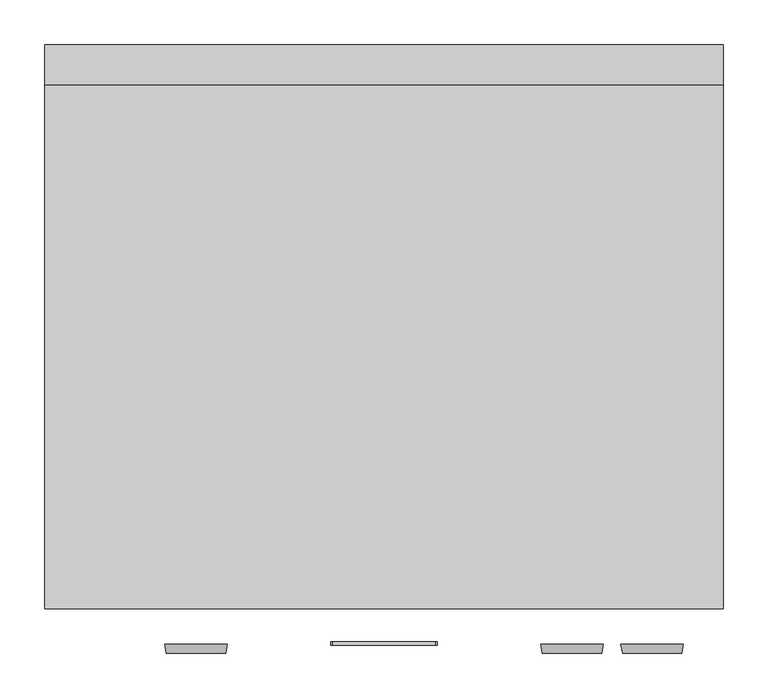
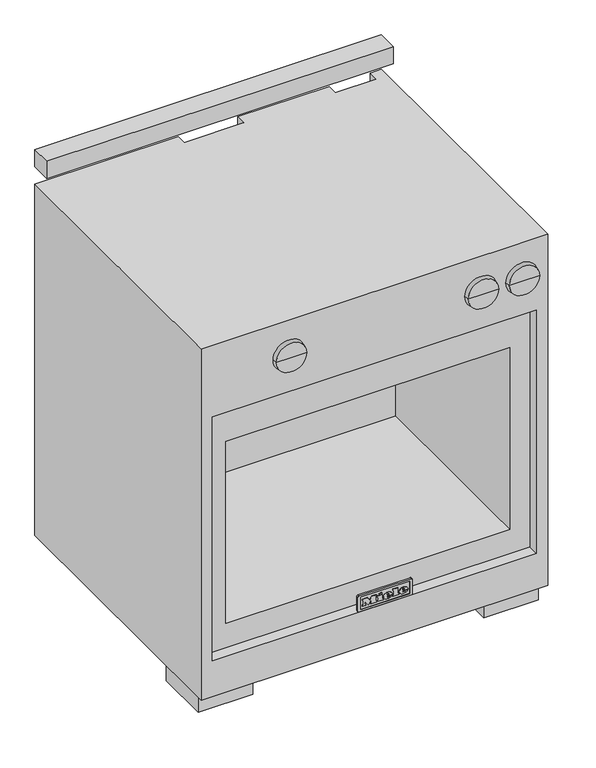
"""IFC4 building model written with IfcOpenShell, lengths in millimetres: proxy geometry, 09810020_USA_HR1124G_EDST-CLST : 25112451_USA_9810020_HR1124G_EDST-CLST."""

from ifc_helpers import new_model, si_unit, point, frame, frame_2d, origin, origin_with_axes, place, context, project, spatial, polyline, circle_curve, ellipse_curve, trimmed, segment, composite_curve, outline, extrude, faceted_brep, source, transform, mapped, element, save
from ifc_brep_helpers import plane_surface, cylinder_surface, revolved_surface, extruded_surface, advanced_brep


def specialty_equipment_f5dd6db6(model_context):
    return source(origin(), model_context, "Body", "SolidModel", [
        advanced_brep(
        [(-244.2367302, -683.0, 813.0), (-177.7632698, -683.0, 813.0), (-211.0, -683.0, 813.0), (-246.0, -673.0, 813.0), (-176.0, -673.0, 813.0), (-211.0, -673.0, 813.0)],
        [
            (0, 1, circle_curve(frame((-211.0, -683.0, 813.0), z_axis=(0.0, -1.0, 0.0), x_axis=(1.0, 0.0, 0.0)), 33.2367302)),
            (1, 2),
            (2, 0),
            (1, 0, circle_curve(frame((-211.0, -683.0, 813.0), z_axis=(0.0, -1.0, 0.0), x_axis=(1.0, 0.0, 0.0)), 33.2367302)),
            (3, 4, circle_curve(frame((-211.0, -673.0, 813.0), z_axis=(0.0, -1.0, 0.0), x_axis=(1.0, 0.0, 0.0)), 35.0)),
            (4, 1),
            (0, 3),
            (4, 3, circle_curve(frame((-211.0, -673.0, 813.0), z_axis=(0.0, -1.0, 0.0), x_axis=(1.0, 0.0, 0.0)), 35.0)),
            (5, 4),
            (3, 5),
        ],
        [
            plane_surface(frame((-211.0, -683.0, 813.0), z_axis=(0.0, -1.0, 0.0), x_axis=(1.0, 0.0, 0.0))),
            revolved_surface(polyline([(-177.7632698, -683.0, 813.0), (-176.0, -673.0, 813.0)]), (-211.0, 751.3738435, 813.0), (0.0, 1.0, 0.0)),
            plane_surface(frame((-211.0, -673.0, 813.0), z_axis=(0.0, 1.0, 0.0), x_axis=(1.0, 0.0, 0.0))),
        ],
        [
            (0, [[1, 2, 3]]),
            (0, [[4, -3, -2]]),
            (1, [[5, 6, -1, 7]]),
            (1, [[8, -7, -4, -6]]),
            (2, [[9, -5, 10]]),
            (2, [[-10, -8, -9]]),
        ],
    ),
        advanced_brep(
        [(177.7632698, -683.0, 813.0), (244.2367302, -683.0, 813.0), (211.0, -683.0, 813.0), (176.0, -673.0, 813.0), (246.0, -673.0, 813.0), (211.0, -673.0, 813.0)],
        [
            (0, 1, circle_curve(frame((211.0, -683.0, 813.0), z_axis=(0.0, -1.0, 0.0), x_axis=(1.0, 0.0, 0.0)), 33.2367302)),
            (1, 2),
            (2, 0),
            (1, 0, circle_curve(frame((211.0, -683.0, 813.0), z_axis=(0.0, -1.0, 0.0), x_axis=(1.0, 0.0, 0.0)), 33.2367302)),
            (3, 4, circle_curve(frame((211.0, -673.0, 813.0), z_axis=(0.0, -1.0, 0.0), x_axis=(1.0, 0.0, 0.0)), 35.0)),
            (4, 1),
            (0, 3),
            (4, 3, circle_curve(frame((211.0, -673.0, 813.0), z_axis=(0.0, -1.0, 0.0), x_axis=(1.0, 0.0, 0.0)), 35.0)),
            (5, 4),
            (3, 5),
        ],
        [
            plane_surface(frame((211.0, -683.0, 813.0), z_axis=(0.0, -1.0, 0.0), x_axis=(1.0, 0.0, 0.0))),
            revolved_surface(polyline([(244.2367302, -683.0, 813.0), (246.0, -673.0, 813.0)]), (211.0, 751.3738435, 813.0), (0.0, 1.0, 0.0)),
            plane_surface(frame((211.0, -673.0, 813.0), z_axis=(0.0, 1.0, 0.0), x_axis=(1.0, 0.0, 0.0))),
        ],
        [
            (0, [[1, 2, 3]]),
            (0, [[4, -3, -2]]),
            (1, [[5, 6, -1, 7]]),
            (1, [[8, -7, -4, -6]]),
            (2, [[9, -5, 10]]),
            (2, [[-10, -8, -9]]),
        ],
    ),
        advanced_brep(
        [(267.7632698, -683.0, 813.0), (334.2367302, -683.0, 813.0), (301.0, -683.0, 813.0), (266.0, -673.0, 813.0), (336.0, -673.0, 813.0), (301.0, -673.0, 813.0)],
        [
            (0, 1, circle_curve(frame((301.0, -683.0, 813.0), z_axis=(0.0, -1.0, 0.0), x_axis=(1.0, 0.0, 0.0)), 33.2367302)),
            (1, 2),
            (2, 0),
            (1, 0, circle_curve(frame((301.0, -683.0, 813.0), z_axis=(0.0, -1.0, 0.0), x_axis=(1.0, 0.0, 0.0)), 33.2367302)),
            (3, 4, circle_curve(frame((301.0, -673.0, 813.0), z_axis=(0.0, -1.0, 0.0), x_axis=(1.0, 0.0, 0.0)), 35.0)),
            (4, 1),
            (0, 3),
            (4, 3, circle_curve(frame((301.0, -673.0, 813.0), z_axis=(0.0, -1.0, 0.0), x_axis=(1.0, 0.0, 0.0)), 35.0)),
            (5, 4),
            (3, 5),
        ],
        [
            plane_surface(frame((301.0, -683.0, 813.0), z_axis=(0.0, -1.0, 0.0), x_axis=(1.0, 0.0, 0.0))),
            revolved_surface(polyline([(334.2367302, -683.0, 813.0), (336.0, -673.0, 813.0)]), (301.0, 751.3738435, 813.0), (0.0, 1.0, 0.0)),
            plane_surface(frame((301.0, -673.0, 813.0), z_axis=(0.0, 1.0, 0.0), x_axis=(1.0, 0.0, 0.0))),
        ],
        [
            (0, [[1, 2, 3]]),
            (0, [[4, -3, -2]]),
            (1, [[5, 6, -1, 7]]),
            (1, [[8, -7, -4, -6]]),
            (2, [[9, -5, 10]]),
            (2, [[-10, -8, -9]]),
        ],
    ),
        extrude(outline(composite_curve([segment(trimmed(circle_curve(frame_2d((-152.0, 39.6862697)), 39.6862697), [point((-112.6710759, 45.0))], [point((-191.3289241, 45.0))], False, "CARTESIAN"), True, "CONTINUOUS"), segment(polyline([(-191.3289241, 45.0), (-112.6710759, 45.0)]), True, "CONTINUOUS")], self_intersect=False)), frame((206.0, 0.0, 0.0), z_axis=(1.0, 0.0, 0.0), x_axis=(0.0, 1.0, 0.0)), (0.0, 0.0, 1.0), 28.0),
        extrude(outline(composite_curve([segment(polyline([(-310.0009008, -40.0), (-311.2635363, -40.0), (-311.0191787, -38.9415709), (-310.8778726, -34.1117735)]), True, "CONTINUOUS"), segment(trimmed(circle_curve(frame_2d((-309.387549, -34.1553762)), 1.4909613), [point((-310.8778726, -34.1117735))], [point((-309.6381402, -32.6856246))], False, "CARTESIAN"), True, "CONTINUOUS"), segment(trimmed(circle_curve(frame_2d((-308.1175682, -37.7832301)), 5.3195602), [point((-309.6381402, -32.6856246))], [point((-306.440667, -32.7348914))], False, "CARTESIAN"), True, "CONTINUOUS"), segment(polyline([(-306.440667, -32.7348914), (-305.3643767, -33.4338425), (-304.8177226, -34.6616478), (-306.0710839, -34.8155412), (-306.6628147, -33.9704619)]), True, "CONTINUOUS"), segment(trimmed(circle_curve(frame_2d((-307.889909, -36.6278559)), 2.9270297), [point((-306.6628147, -33.9704619))], [point((-309.335883, -34.0829271))], True, "CARTESIAN"), True, "CONTINUOUS"), segment(polyline([(-309.335883, -34.0829271), (-309.6819155, -35.289686), (-306.4250607, -35.9227545)]), True, "CONTINUOUS"), segment(trimmed(circle_curve(frame_2d((-306.8373847, -38.0439776)), 2.1609254), [point((-306.4250607, -35.9227545))], [point((-305.2872437, -39.5495212))], False, "CARTESIAN"), True, "CONTINUOUS"), segment(trimmed(circle_curve(frame_2d((-307.2230106, -36.6941434)), 3.4496922), [point((-305.2872437, -39.5495212))], [point((-308.4810512, -39.9062626))], False, "CARTESIAN"), True, "CONTINUOUS"), segment(polyline([(-308.4810512, -39.9062626), (-309.6943945, -39.0566705), (-310.0009008, -40.0)]), True, "CONTINUOUS")], self_intersect=False), holes=[composite_curve([segment(polyline([(-309.6808047, -36.7241112), (-309.4778117, -37.8753414), (-308.6808418, -38.5929363), (-307.3846505, -38.8921857)]), True, "CONTINUOUS"), segment(trimmed(circle_curve(frame_2d((-307.1641539, -37.9371101)), 0.980198), [point((-307.3846505, -38.8921857))], [point((-306.5826105, -37.148063))], True, "CARTESIAN"), True, "CONTINUOUS"), segment(polyline([(-306.5826105, -37.148063), (-307.683896, -36.9339948), (-309.6808047, -36.7241112)]), True, "CONTINUOUS")], self_intersect=False)]), frame((0.0, 0.0, 753.0), z_axis=(0.0, 0.0, 1.0), x_axis=(1.0, 0.0, 0.0)), (0.0, 0.0, 1.0), 1.0),
        extrude(outline(composite_curve([segment(polyline([(-313.4581842, -37.6489066), (-312.202206, -37.8031213), (-313.1593436, -39.5606642)]), True, "CONTINUOUS"), segment(trimmed(circle_curve(frame_2d((-315.3057471, -36.6354063)), 3.6282478), [point((-313.1593436, -39.5606642))], [point((-316.8962663, -39.8964538))], False, "CARTESIAN"), True, "CONTINUOUS"), segment(trimmed(circle_curve(frame_2d((-315.7731504, -37.593725)), 2.5620205), [point((-316.8962663, -39.8964538))], [point((-318.32893, -37.7724425))], False, "CARTESIAN"), True, "CONTINUOUS"), segment(trimmed(circle_curve(frame_2d((-316.617737, -37.6527843)), 1.7153715), [point((-318.32893, -37.7724425))], [point((-317.147816, -36.021369))], False, "CARTESIAN"), True, "CONTINUOUS"), segment(polyline([(-317.147816, -36.021369), (-315.3069947, -35.4232499), (-313.987673, -33.9770867)]), True, "CONTINUOUS"), segment(trimmed(circle_curve(frame_2d((-315.1408399, -36.351197)), 2.6393548), [point((-313.987673, -33.9770867))], [point((-316.2940069, -33.9770867))], True, "CARTESIAN"), True, "CONTINUOUS"), segment(polyline([(-316.2940069, -33.9770867), (-316.7553884, -34.6611129), (-318.0084996, -34.5072502), (-317.5756304, -33.3795875)]), True, "CONTINUOUS"), segment(trimmed(circle_curve(frame_2d((-314.9527143, -36.6576461)), 4.1982564), [point((-317.5756304, -33.3795875))], [point((-315.0505395, -32.4605295))], False, "CARTESIAN"), True, "CONTINUOUS"), segment(trimmed(circle_curve(frame_2d((-314.9805679, -35.4626064)), 3.0028922), [point((-315.0505395, -32.4605295))], [point((-312.5718203, -33.6694816))], False, "CARTESIAN"), True, "CONTINUOUS"), segment(trimmed(circle_curve(frame_2d((-314.4380028, -34.5301363)), 2.0550823), [point((-312.5718203, -33.6694816))], [point((-313.4341096, -36.323335))], False, "CARTESIAN"), True, "CONTINUOUS"), segment(polyline([(-313.4341096, -36.323335), (-315.3494535, -36.9828408), (-317.0597255, -37.9076387), (-316.6768706, -38.6156702)]), True, "CONTINUOUS"), segment(trimmed(circle_curve(frame_2d((-315.3695779, -35.6018954)), 3.2850956), [point((-316.6768706, -38.6156702))], [point((-314.0622852, -38.6156702))], True, "CARTESIAN"), True, "CONTINUOUS"), segment(polyline([(-314.0622852, -38.6156702), (-313.4581842, -37.6489066)]), True, "CONTINUOUS")], self_intersect=False)), frame((0.0, 0.0, 753.0), z_axis=(0.0, 0.0, 1.0), x_axis=(1.0, 0.0, 0.0)), (0.0, 0.0, 1.0), 1.0),
        extrude(outline(composite_curve([segment(polyline([(-303.0941465, -34.8216074), (-299.0193946, -34.8216074), (-299.0193946, -36.0727848), (-301.8300756, -36.0727848), (-301.8300756, -37.8953779), (-300.5547934, -38.5734575), (-298.8554891, -38.8730907)]), True, "CONTINUOUS"), segment(trimmed(circle_curve(frame_2d((-298.7763582, -35.1835188)), 3.6904203), [point((-298.8554891, -38.8730907))], [point((-295.0917956, -34.975672))], True, "CARTESIAN"), True, "CONTINUOUS"), segment(trimmed(circle_curve(frame_2d((-299.2742118, -35.2116028)), 4.1890654), [point((-295.0917956, -34.975672))], [point((-298.8924604, -31.0399683))], True, "CARTESIAN"), True, "CONTINUOUS"), segment(trimmed(circle_curve(frame_2d((-299.1434541, -33.7827322)), 2.7542243), [point((-298.8924604, -31.0399683))], [point((-301.2311401, -31.9862582))], True, "CARTESIAN"), True, "CONTINUOUS"), segment(polyline([(-301.2311401, -31.9862582), (-301.7913432, -33.1348449), (-302.9545959, -32.808521), (-302.2222817, -31.1459412)]), True, "CONTINUOUS"), segment(trimmed(circle_curve(frame_2d((-299.0056573, -34.3038983)), 4.5077007), [point((-302.2222817, -31.1459412))], [point((-298.8478593, -29.7989604))], False, "CARTESIAN"), True, "CONTINUOUS"), segment(trimmed(circle_curve(frame_2d((-299.0297107, -35.0029797)), 5.2071956), [point((-298.8478593, -29.7989604))], [point((-293.8225151, -35.0029797))], False, "CARTESIAN"), True, "CONTINUOUS"), segment(trimmed(circle_curve(frame_2d((-299.0187023, -34.9634409)), 5.1963376), [point((-293.8225151, -35.0029797))], [point((-299.0187023, -40.1597785))], False, "CARTESIAN"), True, "CONTINUOUS"), segment(polyline([(-299.0187023, -40.1597785), (-301.0821579, -39.7823822), (-303.0941465, -38.5734575), (-303.0941465, -34.8216074)]), True, "CONTINUOUS")], self_intersect=False)), frame((0.0, 0.0, 753.0), z_axis=(0.0, 0.0, 1.0), x_axis=(1.0, 0.0, 0.0)), (0.0, 0.0, 1.0), 1.0),
        faceted_brep([(356.0, -608.0, 695.0), (-356.0, -608.0, 695.0), (-356.0, -608.0, 128.0), (356.0, -608.0, 128.0), (312.0, -608.0, 608.0), (312.0, -608.0, 185.0), (-312.0, -608.0, 185.0), (-312.0, -608.0, 608.0), (356.0, -633.0, 128.0), (356.0, -633.0, 695.0), (-356.0, -633.0, 128.0), (-356.0, -633.0, 695.0), (-381.0, 0.0, 862.0), (-381.0, -633.0, 862.0), (381.0, -633.0, 862.0), (381.0, 0.0, 862.0), (356.0, 0.0, 862.0), (356.0, -23.0, 862.0), (266.0, -23.0, 862.0), (266.0, 0.0, 862.0), (65.0, 0.0, 862.0), (65.0, -23.0, 862.0), (-66.0, -23.0, 862.0), (-66.0, 0.0, 862.0), (381.0, 0.0, 45.0), (381.0, -633.0, 45.0), (-381.0, -633.0, 45.0), (-381.0, 0.0, 45.0), (-356.0, 0.0, 45.0), (-356.0, -75.0, 45.0), (356.0, -75.0, 45.0), (356.0, 0.0, 45.0), (266.0, 0.0, 132.0), (65.0, 0.0, 132.0), (-66.0, 0.0, 132.0), (-270.0, 0.0, 132.0), (-270.0, 0.0, 784.0), (-335.0, 0.0, 784.0), (-335.0, 0.0, 132.0), (-356.0, 0.0, 132.0), (312.0, -173.0, 608.0), (-312.0, -173.0, 608.0), (-312.0, -173.0, 185.0), (312.0, -173.0, 185.0), (-356.0, -75.0, 132.0), (356.0, -75.0, 132.0), (-335.0, -73.0, 132.0), (-270.0, -73.0, 132.0), (-66.0, -23.0, 132.0), (65.0, -23.0, 132.0), (266.0, -23.0, 132.0), (356.0, -23.0, 132.0), (-335.0, -73.0, 784.0), (-270.0, -73.0, 784.0)], [[[0, 1, 2, 3], [4, 5, 6, 7]], [[0, 3, 8, 9]], [[3, 2, 10, 8]], [[2, 1, 11, 10]], [[1, 0, 9, 11]], [[12, 13, 14, 15, 16, 17, 18, 19, 20, 21, 22, 23]], [[24, 25, 26, 27, 28, 29, 30, 31]], [[20, 19, 32, 33]], [[15, 24, 31, 16]], [[27, 12, 23, 34, 35, 36, 37, 38, 39, 28]], [[13, 12, 27, 26]], [[14, 13, 26, 25], [9, 8, 10, 11]], [[15, 14, 25, 24]], [[40, 41, 42, 43]], [[40, 43, 5, 4]], [[43, 42, 6, 5]], [[42, 41, 7, 6]], [[41, 40, 4, 7]], [[44, 45, 30, 29]], [[45, 44, 39, 38, 46, 47, 35, 34, 48, 49, 33, 32, 50, 51]], [[30, 45, 51, 17, 16, 31]], [[39, 44, 29, 28]], [[52, 53, 47, 46]], [[53, 52, 37, 36]], [[53, 36, 35, 47]], [[37, 52, 46, 38]], [[17, 51, 50, 18]], [[21, 49, 48, 22]], [[49, 21, 20, 33]], [[22, 48, 34, 23]], [[18, 50, 32, 19]]]),
        extrude(outline(polyline([(225.4261097, -45.2846028), (218.1553153, -45.2846028), (218.1553153, -44.0259878), (224.1324687, -44.0259878), (224.1324687, -41.0398896), (218.4699511, -41.0398896), (218.4699511, -39.7868997), (224.1324687, -39.7868997), (224.1324687, -36.484481), (218.0234692, -36.484481), (218.0234692, -35.223126), (225.4261097, -35.223126), (225.4261097, -45.2846028)])), frame((0.0, 0.0, 101.0), z_axis=(0.0, 0.0, 1.0), x_axis=(1.0, 0.0, 0.0)), (0.0, 0.0, 1.0), 1.0),
        extrude(outline(polyline([(216.0939455, -45.2781045), (209.9083542, -45.2781045), (209.9083542, -44.0259878), (214.9083542, -44.0259878), (214.9083542, -35.223126), (216.0939455, -35.223126), (216.0939455, -45.2781045)])), frame((0.0, 0.0, 101.0), z_axis=(0.0, 0.0, 1.0), x_axis=(1.0, 0.0, 0.0)), (0.0, 0.0, 1.0), 1.0),
        extrude(outline(composite_curve([segment(trimmed(circle_curve(frame_2d((218.0, -41.0)), 7.5), [point((218.0, -48.5))], [point((218.0, -33.5))], False, "CARTESIAN"), True, "CONTINUOUS"), segment(trimmed(circle_curve(frame_2d((218.0, -41.0)), 7.5), [point((218.0, -33.5))], [point((218.0, -48.5))], False, "CARTESIAN"), True, "CONTINUOUS")], self_intersect=False)), frame((0.0, 0.0, 102.0), z_axis=(0.0, 0.0, 1.0), x_axis=(1.0, 0.0, 0.0)), (0.0, 0.0, 1.0), 30.0),
        extrude(outline(composite_curve([segment(trimmed(circle_curve(frame_2d((-306.0, -35.0)), 7.5), [point((-313.5, -35.0))], [point((-298.5, -35.0))], False, "CARTESIAN"), True, "CONTINUOUS"), segment(trimmed(circle_curve(frame_2d((-306.0, -35.0)), 7.5), [point((-298.5, -35.0))], [point((-313.5, -35.0))], False, "CARTESIAN"), True, "CONTINUOUS")], self_intersect=False)), frame((0.0, 0.0, 754.0), z_axis=(0.0, 0.0, 1.0), x_axis=(1.0, 0.0, 0.0)), (0.0, 0.0, 1.0), 30.0),
        extrude(outline(composite_curve([segment(trimmed(circle_curve(frame_2d((-152.0, 39.6862697)), 39.6862697), [point((-112.6710759, 45.0))], [point((-191.3289241, 45.0))], False, "CARTESIAN"), True, "CONTINUOUS"), segment(polyline([(-191.3289241, 45.0), (-112.6710759, 45.0)]), True, "CONTINUOUS")], self_intersect=False)), frame((-234.0, 0.0, 0.0), z_axis=(1.0, 0.0, 0.0), x_axis=(0.0, 1.0, 0.0)), (0.0, 0.0, 1.0), 28.0),
        extrude(outline(polyline([(-254.0, -489.0), (-254.0, -609.0), (-374.0, -609.0), (-374.0, -489.0), (-254.0, -489.0)])), origin_with_axes(), (0.0, 0.0, 1.0), 45.0),
        extrude(outline(polyline([(374.0, -489.0), (374.0, -609.0), (254.0, -609.0), (254.0, -489.0), (374.0, -489.0)])), origin_with_axes(), (0.0, 0.0, 1.0), 45.0),
        advanced_brep(
        [(39.18, -674.0, 175.9105), (39.18, -674.0, 177.577), (50.2185, -674.0, 177.577), (31.0125, -674.0, 177.577), (35.55, -674.0, 172.0), (49.938, -674.0, 175.9105), (44.955, -674.0, 175.9105), (41.028, -674.0, 174.0625), (39.18, -674.0, 179.689), (39.18, -674.0, 181.4875), (42.0015, -674.0, 181.4875), (42.0015, -674.0, 179.689), (39.18, -673.0, 175.9105), (41.028, -673.0, 174.0625), (44.955, -673.0, 175.9105), (49.938, -673.0, 175.9105), (35.55, -673.0, 172.0), (31.0125, -673.0, 177.577), (50.2185, -673.0, 177.577), (39.18, -673.0, 177.577), (39.18, -673.0, 179.689), (42.0015, -673.0, 179.689), (42.0015, -673.0, 181.4875), (39.18, -673.0, 181.4875)],
        [
            (0, 1),
            (1, 2),
            (2, 3, ellipse_curve(frame((40.6155, -674.0, 177.577), z_axis=(0.0, -1.0, 0.0), x_axis=(-1.0, 0.0, 0.0)), 9.603, 7.9365)),
            (3, 4, circle_curve(frame((37.39809, -674.0, 178.138), z_axis=(0.0, -1.0, 0.0), x_axis=(0.0, 0.0, -1.0)), 6.4101857)),
            (4, 5, circle_curve(frame((40.4232618, -674.0, 182.494), z_axis=(0.0, -1.0, 0.0), x_axis=(0.0, 0.0, -1.0)), 11.5703378)),
            (5, 6),
            (6, 7, circle_curve(frame((41.8345588, -674.0, 177.445), z_axis=(0.0, 1.0, 0.0), x_axis=(0.0, 0.0, -1.0)), 3.4773328)),
            (7, 0, circle_curve(frame((41.028, -674.0, 175.9105), z_axis=(0.0, 1.0, 0.0), x_axis=(0.0, 0.0, -1.0)), 1.848)),
            (8, 9),
            (9, 10, circle_curve(frame((40.59075, -674.0, 181.4875), z_axis=(0.0, 1.0, 0.0), x_axis=(0.0, 0.0, -1.0)), 1.41075)),
            (10, 11),
            (11, 8),
            (12, 13, circle_curve(frame((41.028, -673.0, 175.9105), z_axis=(0.0, -1.0, 0.0), x_axis=(0.0, 0.0, -1.0)), 1.848)),
            (13, 14, circle_curve(frame((41.8345588, -673.0, 177.445), z_axis=(0.0, -1.0, 0.0), x_axis=(0.0, 0.0, -1.0)), 3.4773328)),
            (14, 15),
            (15, 16, circle_curve(frame((40.4232618, -673.0, 182.494), z_axis=(0.0, 1.0, 0.0), x_axis=(0.0, 0.0, -1.0)), 11.5703378)),
            (16, 17, circle_curve(frame((37.39809, -673.0, 178.138), z_axis=(0.0, 1.0, 0.0), x_axis=(0.0, 0.0, -1.0)), 6.4101857)),
            (17, 18, ellipse_curve(frame((40.6155, -673.0, 177.577), z_axis=(0.0, 1.0, 0.0), x_axis=(-1.0, 0.0, 0.0)), 9.603, 7.9365)),
            (18, 19),
            (19, 12),
            (20, 21),
            (21, 22),
            (22, 23, circle_curve(frame((40.59075, -673.0, 181.4875), z_axis=(0.0, -1.0, 0.0), x_axis=(0.0, 0.0, -1.0)), 1.41075)),
            (23, 20),
            (0, 12),
            (19, 1),
            (18, 2),
            (5, 15),
            (14, 6),
            (17, 3),
            (13, 7),
            (16, 4),
            (8, 20),
            (23, 9),
            (22, 10),
            (21, 11),
        ],
        [
            plane_surface(frame((39.18, -674.0, 177.577), z_axis=(0.0, -1.0, 0.0), x_axis=(0.0, 0.0, 1.0))),
            plane_surface(frame((39.18, -673.0, 177.577), z_axis=(0.0, 1.0, 0.0), x_axis=(0.0, 0.0, -1.0))),
            plane_surface(frame((39.18, -674.0, 175.9105), z_axis=(1.0, 0.0, 0.0), x_axis=(0.0, 1.0, 0.0))),
            plane_surface(frame((39.18, -674.0, 177.577), z_axis=(0.0, 0.0, -1.0), x_axis=(0.0, 1.0, 0.0))),
            plane_surface(frame((49.938, -674.0, 175.9105), z_axis=(0.0, 0.0, 1.0), x_axis=(0.0, 1.0, 0.0))),
            extruded_surface(trimmed(ellipse_curve(frame((40.6155, -672.0, 177.577), z_axis=(0.0, -1.0, 0.0), x_axis=(-1.0, 0.0, 0.0)), 9.603, 7.9365), [point((50.2185, -672.0, 177.577))], [point((31.0125, -672.0, 177.577))], True, "CARTESIAN"), (0.0, -1.0, 0.0), 1.0),
            revolved_surface(polyline([(41.8345588, -673.0, 173.9676672), (41.8345588, -674.0, 173.9676672)]), (41.8345588, -673.0, 177.445), (0.0, 1.0, 0.0)),
            revolved_surface(polyline([(41.028, -673.0, 174.0625), (41.028, -674.0, 174.0625)]), (41.028, -673.0, 175.9105), (0.0, 1.0, 0.0)),
            cylinder_surface(frame((37.39809, -673.0, 178.138), z_axis=(0.0, -1.0, 0.0), x_axis=(0.0, 0.0, -1.0)), 6.4101857),
            cylinder_surface(frame((40.4232618, -673.0, 182.494), z_axis=(0.0, -1.0, 0.0), x_axis=(0.0, 0.0, -1.0)), 11.5703378),
            plane_surface(frame((39.18, -674.0, 179.689), z_axis=(1.0, 0.0, 0.0), x_axis=(0.0, 1.0, 0.0))),
            revolved_surface(polyline([(40.59075, -673.0, 180.07675), (40.59075, -674.0, 180.07675)]), (40.59075, -673.0, 181.4875), (0.0, 1.0, 0.0)),
            plane_surface(frame((42.0015, -674.0, 181.4875), z_axis=(-1.0, 0.0, 0.0), x_axis=(0.0, 1.0, 0.0))),
            plane_surface(frame((42.0015, -674.0, 179.689), z_axis=(0.0, 0.0, 1.0), x_axis=(0.0, 1.0, 0.0))),
        ],
        [
            (0, [[1, 2, 3, 4, 5, 6, 7, 8], [9, 10, 11, 12]]),
            (1, [[13, 14, 15, 16, 17, 18, 19, 20], [21, 22, 23, 24]]),
            (2, [[-1, 25, -20, 26]]),
            (3, [[-2, -26, -19, 27]]),
            (4, [[-6, 28, -15, 29]]),
            (5, [[-3, -27, -18, 30]]),
            (6, [[-7, -29, -14, 31]]),
            (7, [[-8, -31, -13, -25]]),
            (8, [[-4, -30, -17, 32]]),
            (9, [[-5, -32, -16, -28]]),
            (10, [[-9, 33, -24, 34]]),
            (11, [[-10, -34, -23, 35]]),
            (12, [[-11, -35, -22, 36]]),
            (13, [[-12, -36, -21, -33]]),
        ],
    ),
        advanced_brep(
        [(4.7445, -674.0, 175.9105), (4.7445, -674.0, 177.577), (15.783, -674.0, 177.577), (-3.423, -674.0, 177.577), (1.1145, -674.0, 172.0), (15.5025, -674.0, 175.9105), (10.5195, -674.0, 175.9105), (6.5925, -674.0, 174.0625), (4.7445, -674.0, 179.689), (4.7445, -674.0, 181.4875), (7.566, -674.0, 181.4875), (7.566, -674.0, 179.689), (4.7445, -673.0, 175.9105), (6.5925, -673.0, 174.0625), (10.5195, -673.0, 175.9105), (15.5025, -673.0, 175.9105), (1.1145, -673.0, 172.0), (-3.423, -673.0, 177.577), (15.783, -673.0, 177.577), (4.7445, -673.0, 177.577), (4.7445, -673.0, 179.689), (7.566, -673.0, 179.689), (7.566, -673.0, 181.4875), (4.7445, -673.0, 181.4875)],
        [
            (0, 1),
            (1, 2),
            (2, 3, ellipse_curve(frame((6.18, -674.0, 177.577), z_axis=(0.0, -1.0, 0.0), x_axis=(-1.0, 0.0, 0.0)), 9.603, 7.9365)),
            (3, 4, circle_curve(frame((2.96259, -674.0, 178.138), z_axis=(0.0, -1.0, 0.0), x_axis=(0.0, 0.0, -1.0)), 6.4101857)),
            (4, 5, circle_curve(frame((5.9877618, -674.0, 182.494), z_axis=(0.0, -1.0, 0.0), x_axis=(0.0, 0.0, -1.0)), 11.5703378)),
            (5, 6),
            (6, 7, circle_curve(frame((7.3990588, -674.0, 177.445), z_axis=(0.0, 1.0, 0.0), x_axis=(0.0, 0.0, -1.0)), 3.4773328)),
            (7, 0, circle_curve(frame((6.5925, -674.0, 175.9105), z_axis=(0.0, 1.0, 0.0), x_axis=(0.0, 0.0, -1.0)), 1.848)),
            (8, 9),
            (9, 10, circle_curve(frame((6.15525, -674.0, 181.4875), z_axis=(0.0, 1.0, 0.0), x_axis=(0.0, 0.0, -1.0)), 1.41075)),
            (10, 11),
            (11, 8),
            (12, 13, circle_curve(frame((6.5925, -673.0, 175.9105), z_axis=(0.0, -1.0, 0.0), x_axis=(0.0, 0.0, -1.0)), 1.848)),
            (13, 14, circle_curve(frame((7.3990588, -673.0, 177.445), z_axis=(0.0, -1.0, 0.0), x_axis=(0.0, 0.0, -1.0)), 3.4773328)),
            (14, 15),
            (15, 16, circle_curve(frame((5.9877618, -673.0, 182.494), z_axis=(0.0, 1.0, 0.0), x_axis=(0.0, 0.0, -1.0)), 11.5703378)),
            (16, 17, circle_curve(frame((2.96259, -673.0, 178.138), z_axis=(0.0, 1.0, 0.0), x_axis=(0.0, 0.0, -1.0)), 6.4101857)),
            (17, 18, ellipse_curve(frame((6.18, -673.0, 177.577), z_axis=(0.0, 1.0, 0.0), x_axis=(-1.0, 0.0, 0.0)), 9.603, 7.9365)),
            (18, 19),
            (19, 12),
            (20, 21),
            (21, 22),
            (22, 23, circle_curve(frame((6.15525, -673.0, 181.4875), z_axis=(0.0, -1.0, 0.0), x_axis=(0.0, 0.0, -1.0)), 1.41075)),
            (23, 20),
            (0, 12),
            (19, 1),
            (18, 2),
            (5, 15),
            (14, 6),
            (17, 3),
            (13, 7),
            (16, 4),
            (8, 20),
            (23, 9),
            (22, 10),
            (21, 11),
        ],
        [
            plane_surface(frame((4.7445, -674.0, 177.577), z_axis=(0.0, -1.0, 0.0), x_axis=(0.0, 0.0, 1.0))),
            plane_surface(frame((4.7445, -673.0, 177.577), z_axis=(0.0, 1.0, 0.0), x_axis=(0.0, 0.0, -1.0))),
            plane_surface(frame((4.7445, -674.0, 175.9105), z_axis=(1.0, 0.0, 0.0), x_axis=(0.0, 1.0, 0.0))),
            plane_surface(frame((4.7445, -674.0, 177.577), z_axis=(0.0, 0.0, -1.0), x_axis=(0.0, 1.0, 0.0))),
            plane_surface(frame((15.5025, -674.0, 175.9105), z_axis=(0.0, 0.0, 1.0), x_axis=(0.0, 1.0, 0.0))),
            extruded_surface(trimmed(ellipse_curve(frame((6.18, -672.0, 177.577), z_axis=(0.0, -1.0, 0.0), x_axis=(-1.0, 0.0, 0.0)), 9.603, 7.9365), [point((15.783, -672.0, 177.577))], [point((-3.423, -672.0, 177.577))], True, "CARTESIAN"), (0.0, -1.0, 0.0), 1.0),
            revolved_surface(polyline([(7.3990588, -673.0, 173.9676672), (7.3990588, -674.0, 173.9676672)]), (7.3990588, -673.0, 177.445), (0.0, 1.0, 0.0)),
            revolved_surface(polyline([(6.5925, -673.0, 174.0625), (6.5925, -674.0, 174.0625)]), (6.5925, -673.0, 175.9105), (0.0, 1.0, 0.0)),
            cylinder_surface(frame((2.96259, -673.0, 178.138), z_axis=(0.0, -1.0, 0.0), x_axis=(0.0, 0.0, -1.0)), 6.4101857),
            cylinder_surface(frame((5.9877618, -673.0, 182.494), z_axis=(0.0, -1.0, 0.0), x_axis=(0.0, 0.0, -1.0)), 11.5703378),
            plane_surface(frame((4.7445, -674.0, 179.689), z_axis=(1.0, 0.0, 0.0), x_axis=(0.0, 1.0, 0.0))),
            revolved_surface(polyline([(6.15525, -673.0, 180.07675), (6.15525, -674.0, 180.07675)]), (6.15525, -673.0, 181.4875), (0.0, 1.0, 0.0)),
            plane_surface(frame((7.566, -674.0, 181.4875), z_axis=(-1.0, 0.0, 0.0), x_axis=(0.0, 1.0, 0.0))),
            plane_surface(frame((7.566, -674.0, 179.689), z_axis=(0.0, 0.0, 1.0), x_axis=(0.0, 1.0, 0.0))),
        ],
        [
            (0, [[1, 2, 3, 4, 5, 6, 7, 8], [9, 10, 11, 12]]),
            (1, [[13, 14, 15, 16, 17, 18, 19, 20], [21, 22, 23, 24]]),
            (2, [[-1, 25, -20, 26]]),
            (3, [[-2, -26, -19, 27]]),
            (4, [[-6, 28, -15, 29]]),
            (5, [[-3, -27, -18, 30]]),
            (6, [[-7, -29, -14, 31]]),
            (7, [[-8, -31, -13, -25]]),
            (8, [[-4, -30, -17, 32]]),
            (9, [[-5, -32, -16, -28]]),
            (10, [[-9, 33, -24, 34]]),
            (11, [[-10, -34, -23, 35]]),
            (12, [[-11, -35, -22, 36]]),
            (13, [[-12, -36, -21, -33]]),
        ],
    ),
        extrude(outline(polyline([(187.5265, -13.29), (184.8535, -12.036), (187.4605, -6.4425), (190.1335, -7.68), (187.5265, -13.29)])), frame((0.0, -674.0, 0.0), z_axis=(0.0, 1.0, 0.0), x_axis=(0.0, 0.0, 1.0)), (0.0, 0.0, 1.0), 1.0),
        extrude(outline(polyline([(184.4905, -17.3655), (181.537, -17.3655), (181.537, -15.402), (174.772, -15.402), (174.772, -17.3655), (172.0, -17.3655), (172.0, -4.347), (174.772, -4.347), (174.772, -6.261), (184.4905, -6.261), (184.4905, -17.3655)])), frame((0.0, -674.0, 0.0), z_axis=(0.0, 1.0, 0.0), x_axis=(0.0, 0.0, 1.0)), (0.0, 0.0, 1.0), 1.0),
        extrude(outline(polyline([(185.8105, 16.707), (185.8105, 18.687), (174.772, 18.687), (174.772, 16.707), (172.0, 16.707), (172.0, 30.0885), (174.772, 30.0885), (174.772, 28.059), (188.5, 28.059), (188.5, 16.707), (185.8105, 16.707)])), frame((0.0, -674.0, 0.0), z_axis=(0.0, 1.0, 0.0), x_axis=(0.0, 0.0, 1.0)), (0.0, 0.0, 1.0), 1.0),
        extrude(outline(polyline([(185.8105, -50.25), (185.8105, -48.2535), (174.772, -48.2535), (174.772, -50.25), (172.0, -50.25), (172.0, -42.99), (174.772, -42.99), (174.772, -44.97), (181.7366247, -44.97), (172.0, -37.5945), (182.1277223, -30.186), (174.772, -30.186), (174.772, -32.2155), (172.0, -32.2155), (172.0, -19.0485), (174.772, -19.0485), (174.772, -21.144), (185.8105, -21.144), (185.8105, -19.0485), (188.5, -19.0485), (188.5, -29.097), (182.3125, -33.915), (188.5, -38.7495), (188.5, -50.25), (185.8105, -50.25)])), frame((0.0, -674.0, 0.0), z_axis=(0.0, 1.0, 0.0), x_axis=(0.0, 0.0, 1.0)), (0.0, 0.0, 1.0), 1.0),
        advanced_brep(
        [(57.5, -674.0, 199.0), (-57.5, -674.0, 199.0), (-60.0, -674.0, 196.5), (-60.0, -674.0, 164.5), (-57.5, -674.0, 162.0), (57.5, -674.0, 162.0), (60.0, -674.0, 164.5), (60.0, -674.0, 196.5), (-52.5, -674.0, 195.0), (52.5, -674.0, 195.0), (54.0, -674.0, 193.5), (54.0, -674.0, 167.5), (52.5, -674.0, 166.0), (-52.5, -674.0, 166.0), (-54.0, -674.0, 167.5), (-54.0, -674.0, 193.5), (57.5, -670.0, 199.0), (60.0, -670.0, 196.5), (60.0, -670.0, 164.5), (57.5, -670.0, 162.0), (-57.5, -670.0, 162.0), (-60.0, -670.0, 164.5), (-60.0, -670.0, 196.5), (-57.5, -670.0, 199.0), (52.5, -673.0, 195.0), (-52.5, -673.0, 195.0), (-54.0, -673.0, 193.5), (-54.0, -673.0, 167.5), (-52.5, -673.0, 166.0), (52.5, -673.0, 166.0), (54.0, -673.0, 167.5), (54.0, -673.0, 193.5)],
        [
            (0, 1),
            (1, 2, circle_curve(frame((-57.5, -674.0, 196.5), z_axis=(0.0, -1.0, 0.0), x_axis=(-1.0, 0.0, 0.0)), 2.5)),
            (2, 3),
            (3, 4, circle_curve(frame((-57.5, -674.0, 164.5), z_axis=(0.0, -1.0, 0.0), x_axis=(-1.0, 0.0, 0.0)), 2.5)),
            (4, 5),
            (5, 6, circle_curve(frame((57.5, -674.0, 164.5), z_axis=(0.0, -1.0, 0.0), x_axis=(-1.0, 0.0, 0.0)), 2.5)),
            (6, 7),
            (7, 0, circle_curve(frame((57.5, -674.0, 196.5), z_axis=(0.0, -1.0, 0.0), x_axis=(-1.0, 0.0, 0.0)), 2.5)),
            (8, 9),
            (9, 10, circle_curve(frame((52.5, -674.0, 193.5), z_axis=(0.0, 1.0, 0.0), x_axis=(1.0, 0.0, 0.0)), 1.5)),
            (10, 11),
            (11, 12, circle_curve(frame((52.5, -674.0, 167.5), z_axis=(0.0, 1.0, 0.0), x_axis=(1.0, 0.0, 0.0)), 1.5)),
            (12, 13),
            (13, 14, circle_curve(frame((-52.5, -674.0, 167.5), z_axis=(0.0, 1.0, 0.0), x_axis=(1.0, 0.0, 0.0)), 1.5)),
            (14, 15),
            (15, 8, circle_curve(frame((-52.5, -674.0, 193.5), z_axis=(0.0, 1.0, 0.0), x_axis=(1.0, 0.0, 0.0)), 1.5)),
            (16, 17, circle_curve(frame((57.5, -670.0, 196.5), z_axis=(0.0, 1.0, 0.0), x_axis=(-1.0, 0.0, 0.0)), 2.5)),
            (17, 18),
            (18, 19, circle_curve(frame((57.5, -670.0, 164.5), z_axis=(0.0, 1.0, 0.0), x_axis=(-1.0, 0.0, 0.0)), 2.5)),
            (19, 20),
            (20, 21, circle_curve(frame((-57.5, -670.0, 164.5), z_axis=(0.0, 1.0, 0.0), x_axis=(-1.0, 0.0, 0.0)), 2.5)),
            (21, 22),
            (22, 23, circle_curve(frame((-57.5, -670.0, 196.5), z_axis=(0.0, 1.0, 0.0), x_axis=(-1.0, 0.0, 0.0)), 2.5)),
            (23, 16),
            (0, 16),
            (23, 1),
            (22, 2),
            (21, 3),
            (20, 4),
            (19, 5),
            (18, 6),
            (17, 7),
            (24, 25),
            (25, 26, circle_curve(frame((-52.5, -673.0, 193.5), z_axis=(0.0, -1.0, 0.0), x_axis=(1.0, 0.0, 0.0)), 1.5)),
            (26, 27),
            (27, 28, circle_curve(frame((-52.5, -673.0, 167.5), z_axis=(0.0, -1.0, 0.0), x_axis=(1.0, 0.0, 0.0)), 1.5)),
            (28, 29),
            (29, 30, circle_curve(frame((52.5, -673.0, 167.5), z_axis=(0.0, -1.0, 0.0), x_axis=(1.0, 0.0, 0.0)), 1.5)),
            (30, 31),
            (31, 24, circle_curve(frame((52.5, -673.0, 193.5), z_axis=(0.0, -1.0, 0.0), x_axis=(1.0, 0.0, 0.0)), 1.5)),
            (24, 9),
            (8, 25),
            (15, 26),
            (14, 27),
            (13, 28),
            (12, 29),
            (11, 30),
            (10, 31),
        ],
        [
            plane_surface(frame((55.0, -674.0, 196.5), z_axis=(0.0, -1.0, 0.0), x_axis=(0.0, 0.0, -1.0))),
            plane_surface(frame((55.0, -670.0, 196.5), z_axis=(0.0, 1.0, 0.0), x_axis=(0.0, 0.0, 1.0))),
            plane_surface(frame((-57.5, -670.0, 199.0), z_axis=(0.0, 0.0, 1.0), x_axis=(0.0, -1.0, 0.0))),
            cylinder_surface(frame((-57.5, -674.0, 196.5), z_axis=(0.0, 1.0, 0.0), x_axis=(-1.0, 0.0, 0.0)), 2.5),
            plane_surface(frame((-60.0, -670.0, 164.5), z_axis=(-1.0, 0.0, 0.0), x_axis=(0.0, -1.0, 0.0))),
            cylinder_surface(frame((-57.5, -674.0, 164.5), z_axis=(0.0, 1.0, 0.0), x_axis=(-1.0, 0.0, 0.0)), 2.5),
            plane_surface(frame((57.5, -670.0, 162.0), z_axis=(0.0, 0.0, -1.0), x_axis=(0.0, -1.0, 0.0))),
            cylinder_surface(frame((57.5, -674.0, 164.5), z_axis=(0.0, 1.0, 0.0), x_axis=(-1.0, 0.0, 0.0)), 2.5),
            plane_surface(frame((60.0, -670.0, 196.5), z_axis=(1.0, 0.0, 0.0), x_axis=(0.0, -1.0, 0.0))),
            cylinder_surface(frame((57.5, -674.0, 196.5), z_axis=(0.0, 1.0, 0.0), x_axis=(-1.0, 0.0, 0.0)), 2.5),
            plane_surface(frame((-52.5, -673.0, 195.0), z_axis=(0.0, -1.0, 0.0), x_axis=(1.0, 0.0, 0.0))),
            plane_surface(frame((52.5, -674.0, 195.0), z_axis=(0.0, 0.0, -1.0), x_axis=(0.0, 1.0, 0.0))),
            revolved_surface(polyline([(-51.0, -674.0, 193.5), (-51.0, -673.0, 193.5)]), (-52.5, -673.0, 193.5), (0.0, -1.0, 0.0)),
            plane_surface(frame((-54.0, -674.0, 193.5), z_axis=(1.0, 0.0, 0.0), x_axis=(0.0, 1.0, 0.0))),
            revolved_surface(polyline([(-51.0, -674.0, 167.5), (-51.0, -673.0, 167.5)]), (-52.5, -673.0, 167.5), (0.0, -1.0, 0.0)),
            plane_surface(frame((-52.5, -674.0, 166.0), z_axis=(0.0, 0.0, 1.0), x_axis=(0.0, 1.0, 0.0))),
            revolved_surface(polyline([(54.0, -674.0, 167.5), (54.0, -673.0, 167.5)]), (52.5, -673.0, 167.5), (0.0, -1.0, 0.0)),
            plane_surface(frame((54.0, -674.0, 167.5), z_axis=(-1.0, 0.0, 0.0), x_axis=(0.0, 1.0, 0.0))),
            revolved_surface(polyline([(54.0, -674.0, 193.5), (54.0, -673.0, 193.5)]), (52.5, -673.0, 193.5), (0.0, -1.0, 0.0)),
        ],
        [
            (0, [[1, 2, 3, 4, 5, 6, 7, 8], [9, 10, 11, 12, 13, 14, 15, 16]]),
            (1, [[17, 18, 19, 20, 21, 22, 23, 24]]),
            (2, [[-1, 25, -24, 26]]),
            (3, [[-2, -26, -23, 27]]),
            (4, [[-3, -27, -22, 28]]),
            (5, [[-4, -28, -21, 29]]),
            (6, [[-5, -29, -20, 30]]),
            (7, [[-6, -30, -19, 31]]),
            (8, [[-7, -31, -18, 32]]),
            (9, [[-8, -32, -17, -25]]),
            (10, [[33, 34, 35, 36, 37, 38, 39, 40]]),
            (11, [[-33, 41, -9, 42]]),
            (12, [[-34, -42, -16, 43]]),
            (13, [[-35, -43, -15, 44]]),
            (14, [[-36, -44, -14, 45]]),
            (15, [[-37, -45, -13, 46]]),
            (16, [[-38, -46, -12, 47]]),
            (17, [[-39, -47, -11, 48]]),
            (18, [[-40, -48, -10, -41]]),
        ],
    ),
        extrude(outline(polyline([(381.0, 0.0), (381.0, -45.0), (-381.0, -45.0), (-381.0, 0.0), (381.0, 0.0)])), frame((0.0, 0.0, 902.0), z_axis=(0.0, 0.0, 1.0), x_axis=(1.0, 0.0, 0.0)), (0.0, 0.0, 1.0), 40.0),
    ])


if __name__ == "__main__":
    model = new_model("IFC4")
    model_context = context("Model", 3, world=origin())
    ifc_project = project(units=[si_unit("LENGTHUNIT", "METRE", prefix="MILLI")], contexts=[model_context])
    site = spatial("IfcSite", under=ifc_project)
    building = spatial("IfcBuilding", under=site)
    placement = place(None, origin())
    specialty_equipment_shape = specialty_equipment_f5dd6db6(model_context)
    element("IfcBuildingElementProxy", 1, Name="09810020_USA_HR1124G_EDST-CLST : 25112451_USA_9810020_HR1124G_EDST-CLST", ObjectType="09810020_USA_HR1124G_EDST-CLST : 25112451_USA_9810020_HR1124G_EDST-CLST", at=placement, inside=building, context=model_context, shape_type="MappedRepresentation", body=[
        mapped(specialty_equipment_shape, transform((0.0, 0.0, 0.0), x_axis=(1.0, 0.0, 0.0), y_axis=(0.0, 1.0, 0.0), z_axis=(0.0, 0.0, 1.0))),
    ])
    save(model, "model.ifc")
